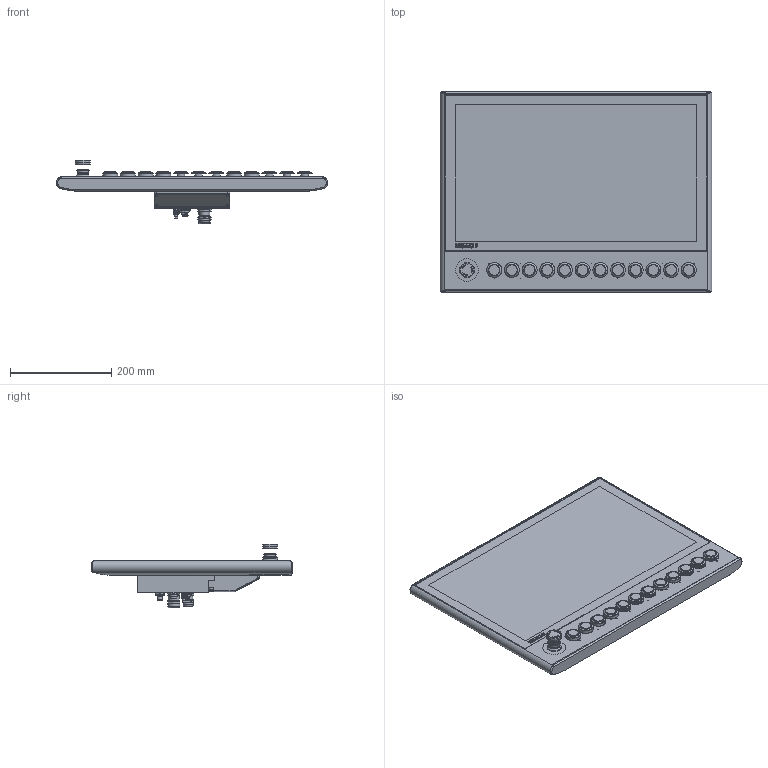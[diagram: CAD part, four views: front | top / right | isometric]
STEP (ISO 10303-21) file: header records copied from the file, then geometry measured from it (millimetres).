
FILE_DESCRIPTION(/* description */ ('-'),/* implementation_level */ '2;1');
FILE_NAME(/* name */ 'C:\Export\0000014683.stp',/* time_stamp */ '2023-04-27T13:33:48+02:00',/* author */ ('-'),/* organization */ ('(c) Beckhoff Automation GmbH & Co. KG, 33415 Verl'),/* preprocessor_version */ 'ST-DEVELOPER v18.1',/* originating_system */ 'Autodesk Inventor 2022',/* authorisation */ '-');
FILE_SCHEMA (('AUTOMOTIVE_DESIGN { 1 0 10303 214 3 1 1 }'));
Products named in the file (1): 0000014683_CP3921-0000_G028_M362
Bounding box: 537.14 x 396.9 x 126.53 mm (x, y, z)
Volume: 6921144.2 mm3; surface area: 610339.1 mm2
Topology: 13 solids, 84 shells, 3101 faces, 7798 edges, 5111 vertices
Faces by surface type: plane 1297, cylinder 872, bspline 608, cone 211, torus 70, sphere 43
Full cylindrical faces by diameter (mm): 0.5 x8, 0.7 x19, 1 x23, 2.459 x22, 3.242 x2, 3.4 x4, 3.8 x1, 4 x1, 4.134 x4, 4.25 x12, 4.917 x8, 5 x2, 5.2 x2, 5.5 x16, 6 x3, 6.4 x2, 6.5 x1, 6.6 x1, 7.9 x1, 8 x1, 8.3 x1, 8.5 x6, 8.8 x4, 9 x5, 10 x1, 10.5 x1, 12 x2, 13.5 x2, 14.5 x1, 15 x12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
Entity records: 113594 total; most frequent: CARTESIAN_POINT 37303, ORIENTED_EDGE 15480, DIRECTION 14763, EDGE_CURVE 7740, AXIS2_PLACEMENT_3D 5624, VERTEX_POINT 5111, LINE 3515, VECTOR 3515
